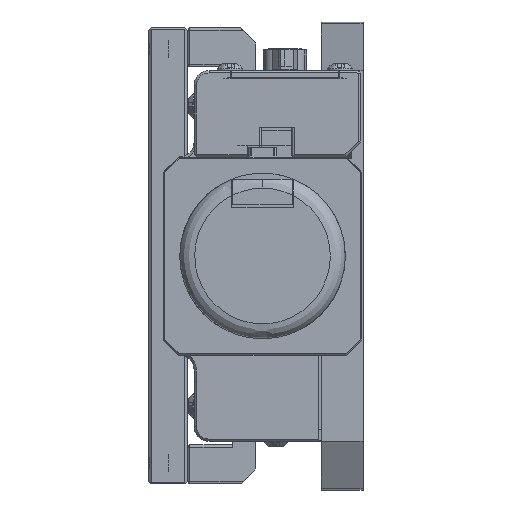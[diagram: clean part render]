
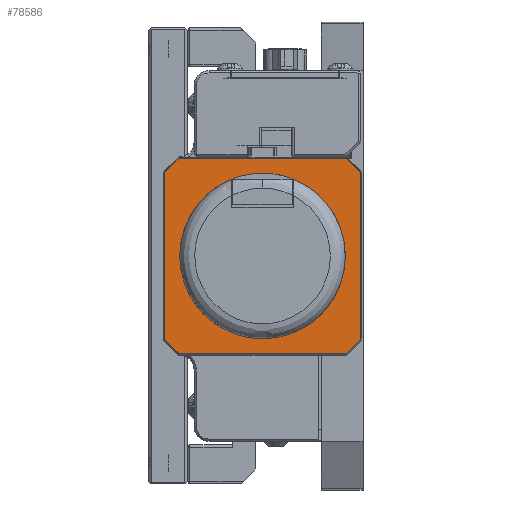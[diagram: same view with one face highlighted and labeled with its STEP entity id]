
A CAD part, left-side view. The second image highlights one B-rep face of the part: STEP entity #78586.
In plain terms, the highlighted planar face has unit normal (-1, 0, 0).
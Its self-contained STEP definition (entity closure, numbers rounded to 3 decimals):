
#2048 = LINE ( 'NONE', #54234, #72676 ) ;
#3200 = DIRECTION ( 'NONE',  ( -1., 0., 0. ) ) ;
#4336 = VERTEX_POINT ( 'NONE', #31499 ) ;
#5274 = VECTOR ( 'NONE', #64794, 1000. ) ;
#11622 = VERTEX_POINT ( 'NONE', #51722 ) ;
#13925 = VERTEX_POINT ( 'NONE', #87558 ) ;
#14083 = ORIENTED_EDGE ( 'NONE', *, *, #65086, .F. ) ;
#14409 = ORIENTED_EDGE ( 'NONE', *, *, #65242, .F. ) ;
#14857 = LINE ( 'NONE', #60286, #83543 ) ;
#20149 = VECTOR ( 'NONE', #39659, 1000. ) ;
#20426 = ORIENTED_EDGE ( 'NONE', *, *, #65383, .F. ) ;
#22492 = ORIENTED_EDGE ( 'NONE', *, *, #65494, .F. ) ;
#22745 = ORIENTED_EDGE ( 'NONE', *, *, #65755, .F. ) ;
#25322 = ORIENTED_EDGE ( 'NONE', *, *, #65772, .F. ) ;
#25625 = VECTOR ( 'NONE', #49407, 1000. ) ;
#25848 = VERTEX_POINT ( 'NONE', #29262 ) ;
#26968 = VERTEX_POINT ( 'NONE', #30660 ) ;
#29262 = CARTESIAN_POINT ( 'NONE',  ( -120.65, 3.598, 59.944 ) ) ;
#29777 = ORIENTED_EDGE ( 'NONE', *, *, #65891, .F. ) ;
#29988 = LINE ( 'NONE', #66075, #5274 ) ;
#30660 = CARTESIAN_POINT ( 'NONE',  ( -120.65, 38.947, 59.944 ) ) ;
#31499 = CARTESIAN_POINT ( 'NONE',  ( -120.65, 38.947, 18.542 ) ) ;
#31730 = ORIENTED_EDGE ( 'NONE', *, *, #65906, .F. ) ;
#32836 = CARTESIAN_POINT ( 'NONE',  ( -120.65, 41.974, 21.568 ) ) ;
#33399 = AXIS2_PLACEMENT_3D ( 'NONE', #71738, #3200, #37621 ) ;
#33959 = CARTESIAN_POINT ( 'NONE',  ( -120.65, 41.974, 18.288 ) ) ;
#34258 = DIRECTION ( 'NONE',  ( 0., -0.707, 0.707 ) ) ;
#34274 = CARTESIAN_POINT ( 'NONE',  ( -120.65, 19.505, 79.386 ) ) ;
#34574 = DIRECTION ( 'NONE',  ( 0., 0., 1. ) ) ;
#37621 = DIRECTION ( 'NONE',  ( 0., 0., 1. ) ) ;
#38338 = LINE ( 'NONE', #40034, #20149 ) ;
#39659 = DIRECTION ( 'NONE',  ( 0., -1., 0. ) ) ;
#40034 = CARTESIAN_POINT ( 'NONE',  ( -120.65, 0.318, 59.944 ) ) ;
#40124 = CARTESIAN_POINT ( 'NONE',  ( -120.65, 0.572, 21.568 ) ) ;
#40549 = DIRECTION ( 'NONE',  ( 0., -0.707, -0.707 ) ) ;
#40645 = CARTESIAN_POINT ( 'NONE',  ( -120.65, 2.085, 58.431 ) ) ;
#42623 = VECTOR ( 'NONE', #40549, 1000. ) ;
#43646 = LINE ( 'NONE', #33959, #78016 ) ;
#45770 = LINE ( 'NONE', #34274, #82309 ) ;
#49407 = DIRECTION ( 'NONE',  ( 0., 0., -1. ) ) ;
#49790 = CARTESIAN_POINT ( 'NONE',  ( -120.65, 0.572, 60.198 ) ) ;
#51722 = CARTESIAN_POINT ( 'NONE',  ( -120.65, 41.974, 56.918 ) ) ;
#53656 = DIRECTION ( 'NONE',  ( 0., 0.707, -0.707 ) ) ;
#54234 = CARTESIAN_POINT ( 'NONE',  ( -120.65, -18.87, 41.01 ) ) ;
#54715 = VERTEX_POINT ( 'NONE', #66670 ) ;
#58400 = VERTEX_POINT ( 'NONE', #32836 ) ;
#60090 = DIRECTION ( 'NONE',  ( 0., 1., 0. ) ) ;
#60286 = CARTESIAN_POINT ( 'NONE',  ( -120.65, 0.318, 18.542 ) ) ;
#60828 = LINE ( 'NONE', #40645, #42623 ) ;
#64794 = DIRECTION ( 'NONE',  ( 0., 0.707, 0.707 ) ) ;
#64821 = PLANE ( 'NONE',  #33399 ) ;
#65086 = EDGE_CURVE ( 'NONE', #4336, #58400, #29988, .T. ) ;
#65242 = EDGE_CURVE ( 'NONE', #54715, #4336, #14857, .T. ) ;
#65383 = EDGE_CURVE ( 'NONE', #84357, #54715, #2048, .T. ) ;
#65494 = EDGE_CURVE ( 'NONE', #13925, #84357, #82394, .T. ) ;
#65755 = EDGE_CURVE ( 'NONE', #25848, #13925, #60828, .T. ) ;
#65772 = EDGE_CURVE ( 'NONE', #26968, #25848, #38338, .T. ) ;
#65891 = EDGE_CURVE ( 'NONE', #11622, #26968, #45770, .T. ) ;
#65906 = EDGE_CURVE ( 'NONE', #58400, #11622, #43646, .T. ) ;
#66075 = CARTESIAN_POINT ( 'NONE',  ( -120.65, 40.46, 20.055 ) ) ;
#66670 = CARTESIAN_POINT ( 'NONE',  ( -120.65, 3.598, 18.542 ) ) ;
#71738 = CARTESIAN_POINT ( 'NONE',  ( -120.65, 0.318, 60.198 ) ) ;
#72676 = VECTOR ( 'NONE', #53656, 1000. ) ;
#75741 = EDGE_LOOP ( 'NONE', ( #14083, #14409, #20426, #22492, #22745, #25322, #29777, #31730 ) ) ;
#78016 = VECTOR ( 'NONE', #34574, 1000. ) ;
#78586 = ADVANCED_FACE ( 'NONE', ( #85143 ), #64821, .T. ) ;
#82309 = VECTOR ( 'NONE', #34258, 1000. ) ;
#82394 = LINE ( 'NONE', #49790, #25625 ) ;
#83543 = VECTOR ( 'NONE', #60090, 1000. ) ;
#84357 = VERTEX_POINT ( 'NONE', #40124 ) ;
#85143 = FACE_OUTER_BOUND ( 'NONE', #75741, .T. ) ;
#87558 = CARTESIAN_POINT ( 'NONE',  ( -120.65, 0.572, 56.918 ) ) ;
